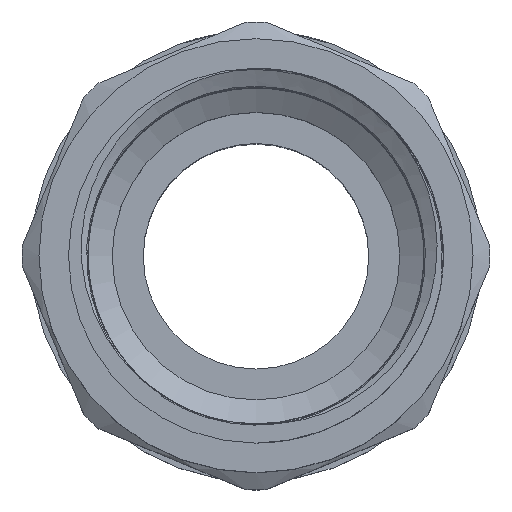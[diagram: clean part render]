
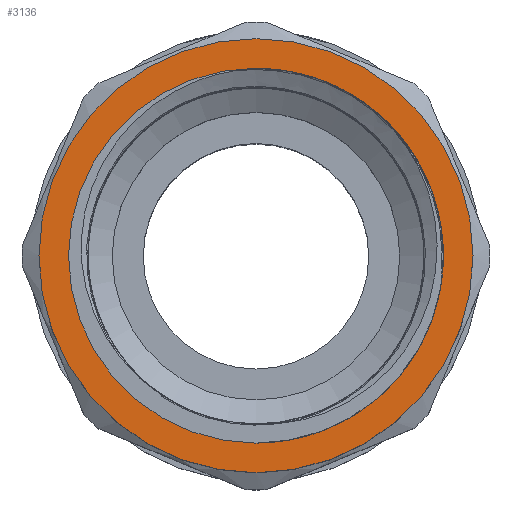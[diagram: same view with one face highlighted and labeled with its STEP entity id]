
A CAD part, top view. The second image highlights one B-rep face of the part: STEP entity #3136.
In plain terms, the highlighted planar face has unit normal (0, 0, 1).
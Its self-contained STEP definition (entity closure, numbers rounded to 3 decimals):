
#39=FACE_BOUND('',#674,.T.);
#292=PLANE('',#3434);
#485=FACE_OUTER_BOUND('',#673,.T.);
#673=EDGE_LOOP('',(#2870,#2871));
#674=EDGE_LOOP('',(#2872,#2873));
#1199=CIRCLE('',#3421,19.25);
#1200=CIRCLE('',#3422,19.25);
#1205=CIRCLE('',#3432,16.625);
#1206=CIRCLE('',#3433,16.625);
#1500=VERTEX_POINT('',#6438);
#1501=VERTEX_POINT('',#6440);
#1506=VERTEX_POINT('',#6460);
#1507=VERTEX_POINT('',#6462);
#1956=EDGE_CURVE('',#1500,#1501,#1199,.T.);
#1957=EDGE_CURVE('',#1501,#1500,#1200,.T.);
#1967=EDGE_CURVE('',#1507,#1506,#1205,.T.);
#1968=EDGE_CURVE('',#1506,#1507,#1206,.T.);
#2870=ORIENTED_EDGE('',*,*,#1957,.F.);
#2871=ORIENTED_EDGE('',*,*,#1956,.F.);
#2872=ORIENTED_EDGE('',*,*,#1967,.T.);
#2873=ORIENTED_EDGE('',*,*,#1968,.T.);
#3136=ADVANCED_FACE('',(#485,#39),#292,.T.);
#3421=AXIS2_PLACEMENT_3D('',#6441,#4099,#4100);
#3422=AXIS2_PLACEMENT_3D('',#6442,#4101,#4102);
#3432=AXIS2_PLACEMENT_3D('',#6463,#4126,#4127);
#3433=AXIS2_PLACEMENT_3D('',#6464,#4128,#4129);
#3434=AXIS2_PLACEMENT_3D('',#6465,#4130,#4131);
#4099=DIRECTION('center_axis',(0.,0.,-1.));
#4100=DIRECTION('ref_axis',(1.,0.,0.));
#4101=DIRECTION('center_axis',(0.,0.,-1.));
#4102=DIRECTION('ref_axis',(1.,0.,0.));
#4126=DIRECTION('center_axis',(0.,0.,-1.));
#4127=DIRECTION('ref_axis',(1.,0.,0.));
#4128=DIRECTION('center_axis',(0.,0.,-1.));
#4129=DIRECTION('ref_axis',(1.,0.,0.));
#4130=DIRECTION('center_axis',(0.,0.,1.));
#4131=DIRECTION('ref_axis',(1.,0.,0.));
#6438=CARTESIAN_POINT('',(0.,19.25,66.2));
#6440=CARTESIAN_POINT('',(0.,-19.25,66.2));
#6441=CARTESIAN_POINT('Origin',(0.,0.,66.2));
#6442=CARTESIAN_POINT('Origin',(0.,0.,66.2));
#6460=CARTESIAN_POINT('',(0.,16.625,66.2));
#6462=CARTESIAN_POINT('',(0.,-16.625,66.2));
#6463=CARTESIAN_POINT('Origin',(0.,0.,66.2));
#6464=CARTESIAN_POINT('Origin',(0.,0.,66.2));
#6465=CARTESIAN_POINT('Origin',(0.,-19.25,66.2));
